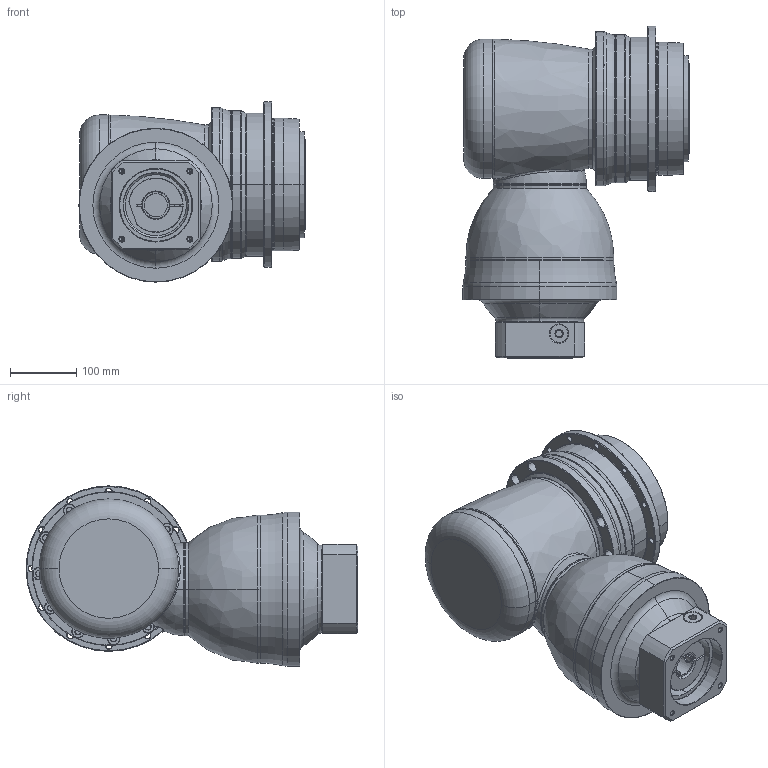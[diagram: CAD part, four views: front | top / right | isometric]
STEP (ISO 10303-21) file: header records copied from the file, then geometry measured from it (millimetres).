
FILE_DESCRIPTION((''),'2;1');
FILE_NAME('AHKB200_3ST_35-P0409800101_ASM','2016-12-15T',('d01943'),(''),'PRO/ENGINEER BY PARAMETRIC TECHNOLOGY CORPORATION, 2008410','PRO/ENGINEER BY PARAMETRIC TECHNOLOGY CORPORATION, 2008410','');
FILE_SCHEMA(('CONFIG_CONTROL_DESIGN'));
Length unit declared in the file: millimetre
Products named in the file (12): P1008600002; P1802600011; P0278600003; P0359600002; P1315600001; P1007600001; P1317600301; P0409800101; P0503800012; P0912503001; 21711422019; AHKB200_3ST_35-P0409800101_ASM
Assembly tree (11 placements, depth 2):
  AHKB200_3ST_35-P0409800101_ASM
    P1008600002
    P1802600011
    P0278600003
    P0359600002
    P1315600001
    P1007600001
    P1317600301
    P0409800101
    P0503800012
    P0912503001
    21711422019
Bounding box: 341 x 500.25 x 271.75 mm (x, y, z)
Volume: 14004177.6 mm3; surface area: 1181695.1 mm2
Topology: 12 solids, 12 shells, 991 faces, 2269 edges, 1304 vertices
Faces by surface type: cylinder 356, cone 332, plane 136, torus 126, bspline 39, sphere 2
Entity records: 34076 total; most frequent: CARTESIAN_POINT 11365, DIRECTION 5228, ORIENTED_EDGE 4350, AXIS2_PLACEMENT_3D 2234, EDGE_CURVE 2175, VERTEX_POINT 1304, CIRCLE 1259, EDGE_LOOP 1149
